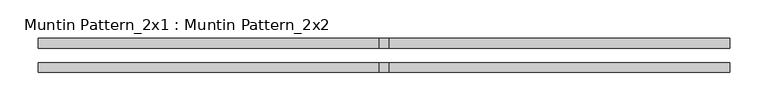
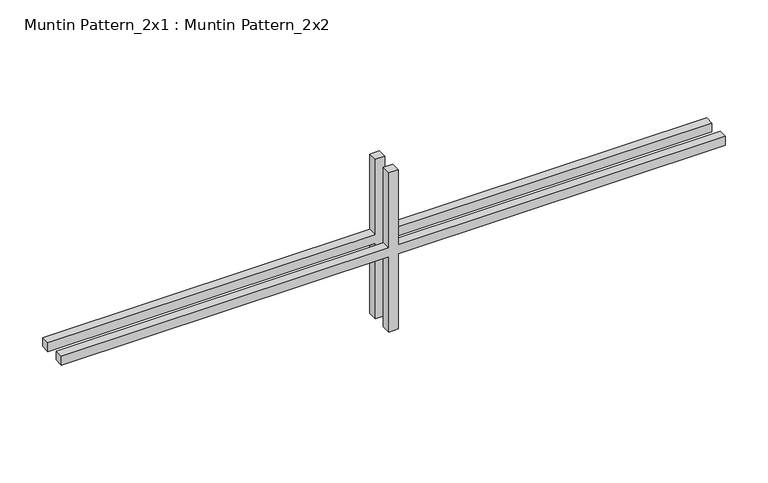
"""IFC4 building model written with IfcOpenShell, lengths in millimetres: proxy geometry, Muntin Pattern_2x1 : Muntin Pattern_2x2."""

from ifc_helpers import new_model, si_unit, frame, origin, place, context, project, spatial, polyline, outline, extrude, source, transform, mapped, element, save


def muntin_pattern_2x1_muntin_pattern_2x2_7469a3c2(model_context):
    return source(origin(), model_context, "Body", "SweptSolid", [
        extrude(outline(polyline([(120.6455927, -6.35), (120.6455927, -450.85), (107.9455927, -450.85), (107.9455927, -6.35), (0.0, -6.35), (0.0, 6.35), (107.9455927, 6.35), (107.9455927, 450.85), (120.6455927, 450.85), (120.6455927, 6.35), (228.5911855, 6.35), (228.5911855, -6.35), (120.6455927, -6.35)])), frame((0.0, 9.525, 0.0), z_axis=(0.0, 1.0, 0.0), x_axis=(0.0, 0.0, 1.0)), (0.0, 0.0, 1.0), 12.7),
        extrude(outline(polyline([(120.6455927, -6.35), (120.6455927, -450.85), (107.9455927, -450.85), (107.9455927, -6.35), (0.0, -6.35), (0.0, 6.35), (107.9455927, 6.35), (107.9455927, 450.85), (120.6455927, 450.85), (120.6455927, 6.35), (228.5911855, 6.35), (228.5911855, -6.35), (120.6455927, -6.35)])), frame((0.0, -22.225, 0.0), z_axis=(0.0, 1.0, 0.0), x_axis=(0.0, 0.0, 1.0)), (0.0, 0.0, 1.0), 12.7),
    ])


if __name__ == "__main__":
    model = new_model("IFC4")
    model_context = context("Model", 3, world=origin())
    ifc_project = project(units=[si_unit("LENGTHUNIT", "METRE", prefix="MILLI")], contexts=[model_context])
    site = spatial("IfcSite", under=ifc_project)
    building = spatial("IfcBuilding", under=site)
    placement = place(None, origin())
    muntin_pattern_2x1_muntin_pattern_2x2_shape = muntin_pattern_2x1_muntin_pattern_2x2_7469a3c2(model_context)
    element("IfcBuildingElementProxy", 1, Name="Muntin Pattern_2x1 : Muntin Pattern_2x2", ObjectType="Muntin Pattern_2x1 : Muntin Pattern_2x2", at=placement, inside=building, context=model_context, shape_type="MappedRepresentation", body=[
        mapped(muntin_pattern_2x1_muntin_pattern_2x2_shape, transform((0.0, 0.0, 0.0), x_axis=(1.0, 0.0, 0.0), y_axis=(0.0, 1.0, 0.0), z_axis=(0.0, 0.0, 1.0))),
    ])
    save(model, "model.ifc")
